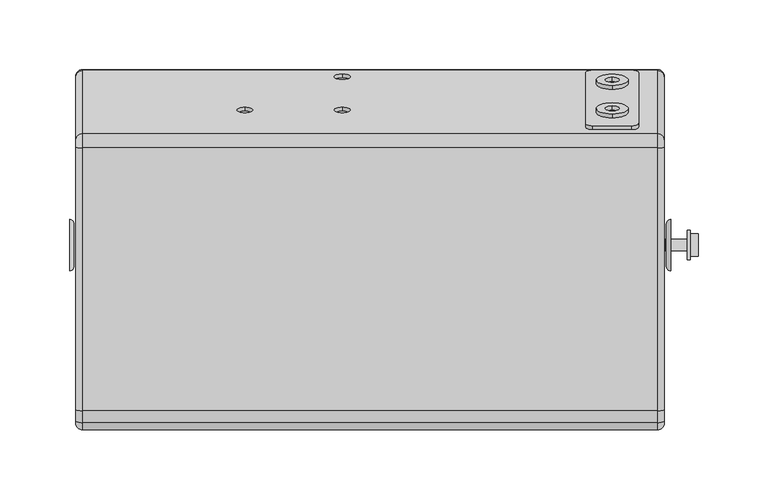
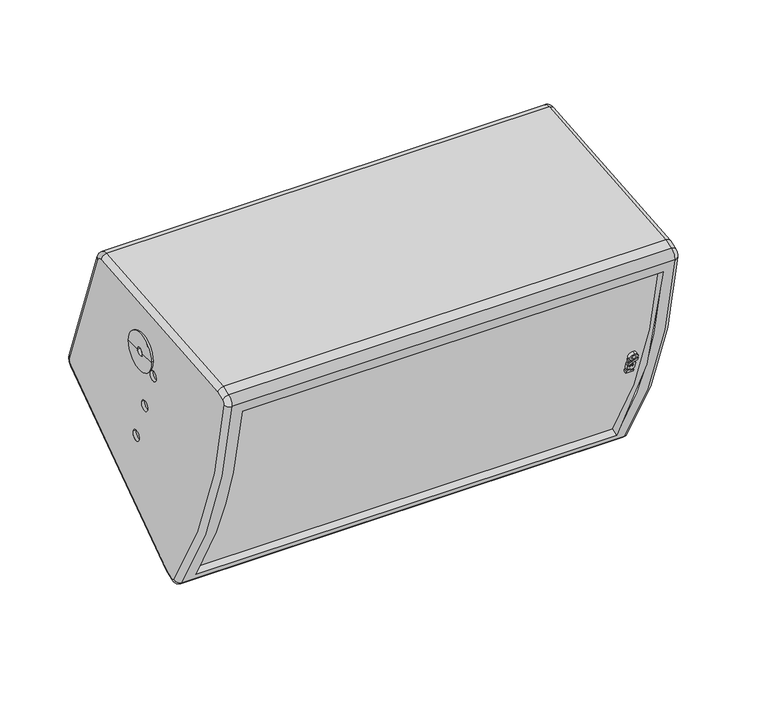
"""IFC4 building model written with IfcOpenShell, lengths in millimetres: proxy geometry, ePS8-HBRK425-CHM : ePS8-HBRK425-CHM."""

from ifc_helpers import new_model, si_unit, point, frame, frame_2d, origin, place, context, project, spatial, polyline, circle_curve, ellipse_curve, trimmed, segment, composite_curve, outline, extrude, source, transform, mapped, element, save
from ifc_brep_helpers import plane_surface, cylinder_surface, revolved_surface, advanced_brep


def generic_models_5a3a644b(model_context):
    return source(origin(), model_context, "Body", "SolidModel", [
        extrude(outline(polyline([(0.0, 0.0), (7.2797671, 0.0), (7.2797671, -1.8923672), (3.1144368, -1.8923672), (7.2797671, -4.6674641), (7.2797671, -11.5183738), (5.4047959, -12.8369462), (3.8052625, -11.7735691), (5.6771026, -10.4040265), (5.6771026, -7.3703972), (4.4228153, -7.3703972), (4.4228153, -9.65351), (2.820085, -9.65351), (2.820085, -7.3703972), (1.6035818, -7.3703972), (1.6035818, -9.7774718), (0.8035818, -9.7774718), (0.0008515, -9.2438131), (0.0008515, -4.9754371), (4.4509076, -4.9657455), (0.0, -2.0264794), (0.0, 0.0)])), frame((182.0590531, -126.494791, -274.642907), z_axis=(0.0, 0.9396926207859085, 0.34202014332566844), x_axis=(1.0, 0.0, 0.0)), (0.0, 0.0, 1.0), 3.0),
        extrude(outline(polyline([(0.0, -9.8851282), (8.2409469, -15.3637474), (8.2409469, -17.5569501), (0.0, -12.078331), (0.0, -9.8851282)])), frame((182.0590531, -126.494791, -274.642907), z_axis=(0.0, 0.9396926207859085, 0.34202014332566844), x_axis=(1.0, 0.0, 0.0)), (0.0, 0.0, 1.0), 3.0),
        extrude(outline(polyline([(0.0, -16.6257623), (0.0, -14.2989717), (1.267957, -13.5511774), (2.8988509, -14.6354031), (0.0, -16.6257623)])), frame((182.0590531, -126.494791, -274.642907), z_axis=(0.0, 0.9396926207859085, 0.34202014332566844), x_axis=(1.0, 0.0, 0.0)), (0.0, 0.0, 1.0), 3.0),
        extrude(outline(composite_curve([segment(trimmed(circle_curve(frame_2d((3.670838, -20.0113735)), 3.9406238), [point((3.670838, -16.0707496))], [point((3.670838, -23.9519973))], False, "CARTESIAN"), True, "CONTINUOUS"), segment(trimmed(circle_curve(frame_2d((3.670838, -20.0113735)), 3.9406238), [point((3.670838, -23.9519973))], [point((3.670838, -16.0707496))], False, "CARTESIAN"), True, "CONTINUOUS")], self_intersect=False), holes=[composite_curve([segment(trimmed(circle_curve(frame_2d((3.670838, -20.0113735)), 2.0681078), [point((3.670838, -17.9432657))], [point((3.670838, -22.0794813))], True, "CARTESIAN"), True, "CONTINUOUS"), segment(trimmed(circle_curve(frame_2d((3.670838, -20.0113735)), 2.0681078), [point((3.670838, -22.0794813))], [point((3.670838, -17.9432657))], True, "CARTESIAN"), True, "CONTINUOUS")], self_intersect=False)]), frame((182.0590531, -126.494791, -274.642907), z_axis=(0.0, 0.9396926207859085, 0.34202014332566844), x_axis=(1.0, 0.0, 0.0)), (0.0, 0.0, 1.0), 3.0),
        extrude(outline(composite_curve([segment(trimmed(circle_curve(frame_2d((0.0, 5.0)), 11.4515227), [point((0.0, 16.4515227))], [point((0.0, -6.4515227))], False, "CARTESIAN"), True, "CONTINUOUS"), segment(trimmed(circle_curve(frame_2d((0.0, 5.0)), 11.4515227), [point((0.0, -6.4515227))], [point((0.0, 16.4515227))], False, "CARTESIAN"), True, "CONTINUOUS")], self_intersect=False), holes=[composite_curve([segment(trimmed(circle_curve(frame_2d((0.0, 5.0)), 5.0), [point((0.0, 10.0))], [point((0.0, 0.0))], True, "CARTESIAN"), True, "CONTINUOUS"), segment(trimmed(circle_curve(frame_2d((0.0, 5.0)), 5.0), [point((0.0, 0.0))], [point((0.0, 10.0))], True, "CARTESIAN"), True, "CONTINUOUS")], self_intersect=False)]), frame((174.0, 66.6649163, -165.0316775), z_axis=(0.0, 0.9396926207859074, 0.3420201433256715), x_axis=(-1.0, 0.0, 0.0)), (0.0, 0.0, 1.0), 3.0),
        extrude(outline(composite_curve([segment(trimmed(circle_curve(frame_2d((0.0, -54.9999999)), 11.4515227), [point((0.0, -43.5484773))], [point((0.0, -66.4515227))], False, "CARTESIAN"), True, "CONTINUOUS"), segment(trimmed(circle_curve(frame_2d((0.0, -54.9999999)), 11.4515227), [point((0.0, -66.4515227))], [point((0.0, -43.5484773))], False, "CARTESIAN"), True, "CONTINUOUS")], self_intersect=False), holes=[composite_curve([segment(trimmed(circle_curve(frame_2d((0.0, -54.9999999)), 5.0), [point((0.0, -49.9999999))], [point((0.0, -60.0))], True, "CARTESIAN"), True, "CONTINUOUS"), segment(trimmed(circle_curve(frame_2d((0.0, -54.9999999)), 5.0), [point((0.0, -60.0))], [point((0.0, -49.9999999))], True, "CARTESIAN"), True, "CONTINUOUS")], self_intersect=False)]), frame((174.0, 66.6649163, -165.0316775), z_axis=(0.0, 0.9396926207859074, 0.3420201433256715), x_axis=(-1.0, 0.0, 0.0)), (0.0, 0.0, 1.0), 3.0),
        extrude(outline(composite_curve([segment(polyline([(-5.0, -5.0000001), (-5.0, 101.0)]), True, "CONTINUOUS"), segment(trimmed(circle_curve(frame_2d((0.0, 101.0)), 5.0), [point((-5.0, 101.0))], [point((0.0, 106.0))], False, "CARTESIAN"), True, "CONTINUOUS"), segment(polyline([(0.0, 106.0), (28.0, 106.0)]), True, "CONTINUOUS"), segment(trimmed(circle_curve(frame_2d((28.0, 101.0)), 5.0), [point((28.0, 106.0))], [point((33.0, 101.0))], False, "CARTESIAN"), True, "CONTINUOUS"), segment(polyline([(33.0, 101.0), (33.0, -5.0000001)]), True, "CONTINUOUS"), segment(trimmed(circle_curve(frame_2d((28.0, -5.0000001)), 5.0), [point((33.0, -5.0000001))], [point((28.0, -10.0000001))], False, "CARTESIAN"), True, "CONTINUOUS"), segment(polyline([(28.0, -10.0000001), (0.0, -10.0000001)]), True, "CONTINUOUS"), segment(trimmed(circle_curve(frame_2d((0.0, -5.0000001)), 5.0), [point((0.0, -10.0000001))], [point((-5.0, -5.0000001))], False, "CARTESIAN"), True, "CONTINUOUS")], self_intersect=False)), frame((160.0, 55.9793751, -144.4448077), z_axis=(0.0, 0.9396926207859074, 0.3420201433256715), x_axis=(1.0, 0.0, 0.0)), (0.0, 0.0, 1.0), 3.0),
        advanced_brep(
        [(-211.5, 88.5221552, -259.3097239), (-211.5, -66.3456884, -367.7493555), (-211.5, -74.3395243, -370.6588738), (-211.5, -77.8840023, -369.4700024), (-211.5, -158.3753946, -148.3217196), (-211.5, -156.4243587, -145.1326448), (-211.5, -148.4305228, -142.2231265), (-211.5, 39.9087798, -125.7455726), (-211.5, 45.0430216, -129.0164454), (-211.5, 90.3527361, -253.503863), (-211.5, -35.1984631, -228.7113599), (-211.5, -25.8015369, -225.2911584), (-211.5, -21.5176574, -266.2990647), (-211.5, -12.1207312, -262.8788633), (-211.5, -48.8792688, -191.123655), (-211.5, -39.4823426, -187.7034536), (211.5, -66.3456884, -367.7493555), (211.5, 88.5221552, -259.3097239), (211.5, 90.3527361, -253.503863), (211.5, 45.0430216, -129.0164454), (211.5, 39.9087798, -125.7455726), (211.5, -148.4305228, -142.2231265), (211.5, -156.4243587, -145.1326448), (211.5, -158.3753946, -148.3217196), (211.5, -77.8840023, -369.4700024), (211.5, -74.3395243, -370.6588738), (211.5, -25.8015369, -225.2911584), (211.5, -35.1984631, -228.7113599), (211.5, -12.1207312, -262.8788633), (211.5, -21.5176574, -266.2990647), (211.5, -39.4823426, -187.7034536), (211.5, -48.8792688, -191.123655), (-206.5, 95.0511992, -251.7937622), (-206.5, 49.7414847, -127.3063447), (206.5, 49.7414847, -127.3063447), (206.5, 95.0511992, -251.7937622), (-20.0043019, 88.5886982, -234.0381864), (-20.0043019, 92.4580816, -244.6692301), (-20.0043019, 64.6472881, -168.259703), (-20.0043019, 68.5166716, -178.8907467), (-90.0043019, 64.6472881, -168.259703), (-90.0043019, 68.5166716, -178.8907467), (-206.5, -163.3372217, -148.9383812), (-206.5, -82.0813648, -372.1870132), (206.4999999, -82.0813648, -372.1870132), (206.5, -163.3372217, -148.9383812), (-196.5, -86.9073452, -364.5914088), (-196.5, -162.1517768, -157.8590322), (196.5, -162.1517768, -157.8590322), (196.5, -86.9073452, -364.5914088), (-206.5, -158.1344595, -140.4341817), (206.5, -158.1344595, -140.4341817), (-206.5, -149.5220591, -137.2995243), (206.5, -149.5220591, -137.2995243), (-206.5, 39.4730011, -120.7645991), (206.5, 39.4730011, -120.7645991), (-206.5, 91.3900374, -263.4054841), (206.5, 91.3900374, -263.4054841), (-206.5, -64.0170233, -372.2226795), (206.5, -64.0170233, -372.2226795), (-206.5, -72.6294236, -375.3573369), (206.5, -72.6294236, -375.3573369), (-208.5, -25.8015369, -225.2911584), (-208.5, -35.1984631, -228.7113599), (-208.5, -12.1207312, -262.8788633), (-208.5, -21.5176574, -266.2990647), (-208.5, -39.4823426, -187.7034536), (-208.5, -48.8792688, -191.123655), (-196.5, -80.5731273, -362.285942), (-196.5, -155.714505, -155.5160569), (196.5, -155.714505, -155.5160569), (196.5, -80.5731273, -362.285942), (208.5, -25.8015369, -225.2911584), (208.5, -35.1984631, -228.7113599), (208.5, -12.1207312, -262.8788633), (208.5, -21.5176574, -266.2990647), (208.5, -39.4823426, -187.7034536), (208.5, -48.8792688, -191.123655), (-20.0043019, 85.7696203, -235.0642469), (-20.0043019, 89.6390038, -245.6952905), (-20.0043019, 61.8282103, -169.2857634), (-20.0043019, 65.6975937, -179.9168071), (-90.0043019, 61.8282103, -169.2857634), (-90.0043019, 65.6975937, -179.9168071)],
        [
            (0, 1),
            (1, 2),
            (2, 3, circle_curve(frame((-211.5, -75.3655848, -367.8397959), z_axis=(-1.0, 0.0, 0.0), x_axis=(0.0, -0.839472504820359, -0.5434021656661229)), 3.0)),
            (3, 4, circle_curve(frame((-211.5, 364.0613142, -83.3926852), z_axis=(-1.0, 0.0, 0.0), x_axis=(0.0, -0.9923654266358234, -0.12333231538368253)), 526.4559755)),
            (4, 5, circle_curve(frame((-211.5, -155.3982983, -147.9517227), z_axis=(-1.0, 0.0, 0.0), x_axis=(0.0, -0.3420201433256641, 0.9396926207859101)), 3.0)),
            (5, 6),
            (6, 7),
            (7, 8, circle_curve(frame((-211.5, 40.3445585, -130.7265461), z_axis=(-1.0, 0.0, 0.0), x_axis=(0.0, 0.9396926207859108, 0.3420201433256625)), 5.0)),
            (8, 9),
            (9, 0, circle_curve(frame((-211.5, 85.654273, -255.2139637), z_axis=(-1.0, 0.0, 0.0), x_axis=(0.0, 0.5735764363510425, -0.8191520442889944)), 5.0)),
            (10, 11, circle_curve(frame((-211.5, -30.5, -227.0012591), z_axis=(1.0, 0.0, 0.0), x_axis=(0.0, -0.9396926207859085, -0.34202014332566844)), 5.0)),
            (11, 10, circle_curve(frame((-211.5, -30.5, -227.0012591), z_axis=(1.0, 0.0, 0.0), x_axis=(0.0, -0.9396926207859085, -0.34202014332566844)), 5.0)),
            (12, 13, circle_curve(frame((-211.5, -16.8191943, -264.588964), z_axis=(1.0, 0.0, 0.0), x_axis=(0.0, -0.9396926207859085, -0.34202014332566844)), 5.0)),
            (13, 12, circle_curve(frame((-211.5, -16.8191943, -264.588964), z_axis=(1.0, 0.0, 0.0), x_axis=(0.0, -0.9396926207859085, -0.34202014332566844)), 5.0)),
            (14, 15, circle_curve(frame((-211.5, -44.1808057, -189.4135543), z_axis=(1.0, 0.0, 0.0), x_axis=(0.0, -0.9396926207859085, -0.34202014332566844)), 5.0)),
            (15, 14, circle_curve(frame((-211.5, -44.1808057, -189.4135543), z_axis=(1.0, 0.0, 0.0), x_axis=(0.0, -0.9396926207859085, -0.34202014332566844)), 5.0)),
            (16, 17),
            (17, 18, circle_curve(frame((211.5, 85.654273, -255.2139637), z_axis=(1.0, 0.0, 0.0), x_axis=(0.0, 0.5735764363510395, -0.8191520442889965)), 5.0)),
            (18, 19),
            (19, 20, circle_curve(frame((211.5, 40.3445585, -130.7265461), z_axis=(1.0, 0.0, 0.0), x_axis=(0.0, 0.9396926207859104, 0.34202014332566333)), 5.0)),
            (20, 21),
            (21, 22),
            (22, 23, circle_curve(frame((211.5, -155.3982983, -147.9517227), z_axis=(1.0, 0.0, 0.0), x_axis=(0.0, -0.3420201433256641, 0.9396926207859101)), 3.0)),
            (23, 24, circle_curve(frame((211.5, 364.0613142, -83.3926852), z_axis=(1.0, 0.0, 0.0), x_axis=(0.0, -0.9923654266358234, -0.12333231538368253)), 526.4559755)),
            (24, 25, circle_curve(frame((211.5, -75.3655848, -367.8397959), z_axis=(1.0, 0.0, 0.0), x_axis=(0.0, -0.839472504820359, -0.5434021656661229)), 3.0)),
            (25, 16),
            (26, 27, circle_curve(frame((211.5, -30.5, -227.0012591), z_axis=(-1.0, 0.0, 0.0), x_axis=(0.0, -0.9396926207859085, -0.34202014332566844)), 5.0)),
            (27, 26, circle_curve(frame((211.5, -30.5, -227.0012591), z_axis=(-1.0, 0.0, 0.0), x_axis=(0.0, -0.9396926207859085, -0.34202014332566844)), 5.0)),
            (28, 29, circle_curve(frame((211.5, -16.8191943, -264.588964), z_axis=(-1.0, 0.0, 0.0), x_axis=(0.0, -0.9396926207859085, -0.34202014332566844)), 5.0)),
            (29, 28, circle_curve(frame((211.5, -16.8191943, -264.588964), z_axis=(-1.0, 0.0, 0.0), x_axis=(0.0, -0.9396926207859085, -0.34202014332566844)), 5.0)),
            (30, 31, circle_curve(frame((211.5, -44.1808057, -189.4135543), z_axis=(-1.0, 0.0, 0.0), x_axis=(0.0, -0.9396926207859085, -0.34202014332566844)), 5.0)),
            (31, 30, circle_curve(frame((211.5, -44.1808057, -189.4135543), z_axis=(-1.0, 0.0, 0.0), x_axis=(0.0, -0.9396926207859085, -0.34202014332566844)), 5.0)),
            (32, 33),
            (33, 34),
            (34, 35),
            (35, 32),
            (36, 37, circle_curve(frame((-20.0043019, 90.5233899, -239.3537083), z_axis=(0.0, -0.9396926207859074, -0.3420201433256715), x_axis=(0.0, 0.3420201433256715, -0.9396926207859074)), 5.6566602)),
            (37, 36, circle_curve(frame((-20.0043019, 90.5233899, -239.3537083), z_axis=(0.0, -0.9396926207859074, -0.3420201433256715), x_axis=(0.0, 0.3420201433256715, -0.9396926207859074)), 5.6566602)),
            (38, 39, circle_curve(frame((-20.0043019, 66.5819799, -173.5752248), z_axis=(0.0, -0.9396926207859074, -0.3420201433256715), x_axis=(0.0, 0.3420201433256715, -0.9396926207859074)), 5.6566602)),
            (39, 38, circle_curve(frame((-20.0043019, 66.5819799, -173.5752248), z_axis=(0.0, -0.9396926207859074, -0.3420201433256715), x_axis=(0.0, 0.3420201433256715, -0.9396926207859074)), 5.6566602)),
            (40, 41, circle_curve(frame((-90.0043019, 66.5819799, -173.5752248), z_axis=(0.0, -0.9396926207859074, -0.3420201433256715), x_axis=(0.0, 0.3420201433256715, -0.9396926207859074)), 5.6566602)),
            (41, 40, circle_curve(frame((-90.0043019, 66.5819799, -173.5752248), z_axis=(0.0, -0.9396926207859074, -0.3420201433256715), x_axis=(0.0, 0.3420201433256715, -0.9396926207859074)), 5.6566602)),
            (42, 43, circle_curve(frame((-206.5, 364.0613142, -83.3926852), z_axis=(1.0, 0.0, 0.0), x_axis=(0.0, -0.34202014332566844, 0.9396926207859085)), 531.4559755)),
            (43, 44),
            (44, 45, circle_curve(frame((206.5, 364.0613142, -83.3926852), z_axis=(-1.0, 0.0, 0.0), x_axis=(0.0, -0.34202014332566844, 0.9396926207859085)), 531.4559755)),
            (45, 42),
            (46, 47, circle_curve(frame((-196.5, 364.0613142, -83.3926852), z_axis=(-1.0, 0.0, 0.0), x_axis=(0.0, -0.34202014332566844, 0.9396926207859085)), 531.4559755)),
            (47, 48),
            (48, 49, circle_curve(frame((196.5, 364.0613142, -83.3926852), z_axis=(1.0, 0.0, 0.0), x_axis=(0.0, -0.34202014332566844, 0.9396926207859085)), 531.4559755)),
            (49, 46),
            (50, 42, circle_curve(frame((-206.5, -155.3982983, -147.9517227), z_axis=(1.0, 0.0, 0.0), x_axis=(0.0, -0.34202014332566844, 0.9396926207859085)), 8.0)),
            (45, 51, circle_curve(frame((206.5, -155.3982983, -147.9517227), z_axis=(-1.0, 0.0, 0.0), x_axis=(0.0, -0.34202014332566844, 0.9396926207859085)), 8.0)),
            (51, 50),
            (52, 50),
            (51, 53),
            (53, 52),
            (54, 52),
            (53, 55),
            (55, 54),
            (33, 54, circle_curve(frame((-206.5, 40.3445585, -130.7265461), z_axis=(1.0, 0.0, 0.0), x_axis=(0.0, -0.34202014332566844, 0.9396926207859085)), 10.0)),
            (55, 34, circle_curve(frame((206.5, 40.3445585, -130.7265461), z_axis=(-1.0, 0.0, 0.0), x_axis=(0.0, -0.34202014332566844, 0.9396926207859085)), 10.0)),
            (56, 32, circle_curve(frame((-206.5, 85.654273, -255.2139637), z_axis=(1.0, 0.0, 0.0), x_axis=(0.0, -0.34202014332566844, 0.9396926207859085)), 10.0)),
            (35, 57, circle_curve(frame((206.5, 85.654273, -255.2139637), z_axis=(-1.0, 0.0, 0.0), x_axis=(0.0, -0.34202014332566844, 0.9396926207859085)), 10.0)),
            (57, 56),
            (58, 56),
            (57, 59),
            (59, 58),
            (60, 58),
            (59, 61),
            (61, 60),
            (43, 60, circle_curve(frame((-206.5, -75.3655848, -367.8397959), z_axis=(1.0, 0.0, 0.0), x_axis=(0.0, -0.34202014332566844, 0.9396926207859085)), 8.0)),
            (61, 44, circle_curve(frame((206.5, -75.3655848, -367.8397959), z_axis=(-1.0, 0.0, 0.0), x_axis=(0.0, -0.34202014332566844, 0.9396926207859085)), 8.0)),
            (62, 63, circle_curve(frame((-208.5, -30.5, -227.0012591), z_axis=(-1.0, 0.0, 0.0), x_axis=(0.0, -0.9396926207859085, -0.34202014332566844)), 5.0)),
            (63, 62, circle_curve(frame((-208.5, -30.5, -227.0012591), z_axis=(-1.0, 0.0, 0.0), x_axis=(0.0, -0.9396926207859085, -0.34202014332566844)), 5.0)),
            (64, 65, circle_curve(frame((-208.5, -16.8191943, -264.588964), z_axis=(-1.0, 0.0, 0.0), x_axis=(0.0, -0.9396926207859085, -0.34202014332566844)), 5.0)),
            (65, 64, circle_curve(frame((-208.5, -16.8191943, -264.588964), z_axis=(-1.0, 0.0, 0.0), x_axis=(0.0, -0.9396926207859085, -0.34202014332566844)), 5.0)),
            (66, 67, circle_curve(frame((-208.5, -44.1808057, -189.4135543), z_axis=(-1.0, 0.0, 0.0), x_axis=(0.0, -0.9396926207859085, -0.34202014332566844)), 5.0)),
            (67, 66, circle_curve(frame((-208.5, -44.1808057, -189.4135543), z_axis=(-1.0, 0.0, 0.0), x_axis=(0.0, -0.9396926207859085, -0.34202014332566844)), 5.0)),
            (62, 11),
            (10, 63),
            (64, 13),
            (12, 65),
            (66, 15),
            (14, 67),
            (46, 68),
            (68, 69, circle_curve(frame((-196.5, 360.9248593, -84.8046593), z_axis=(-1.0, 0.0, 0.0), x_axis=(0.0, -0.34202014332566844, 0.9396926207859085)), 521.4559755)),
            (69, 47),
            (48, 70),
            (70, 71, circle_curve(frame((196.5, 360.9248593, -84.8046593), z_axis=(1.0, 0.0, 0.0), x_axis=(0.0, -0.34202014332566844, 0.9396926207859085)), 521.4559755)),
            (71, 49),
            (69, 70),
            (68, 71),
            (0, 56, circle_curve(frame((-206.5, 88.5221552, -259.3097239), z_axis=(0.0, -0.8191520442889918, -0.5735764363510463), x_axis=(0.0, 0.5735764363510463, -0.8191520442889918)), 5.0)),
            (58, 1, ellipse_curve(frame((-206.5, -66.3456884, -367.7493555), z_axis=(0.0, 0.8870108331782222, 0.46174861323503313), x_axis=(0.0, -0.46174861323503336, 0.8870108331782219)), 5.0431448, 5.0)),
            (9, 32, circle_curve(frame((-206.5, 90.3527361, -253.503863), z_axis=(0.0, 0.34202014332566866, -0.9396926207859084), x_axis=(0.0, 0.9396926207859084, 0.34202014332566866)), 5.0)),
            (8, 33, circle_curve(frame((-206.5, 45.0430216, -129.0164454), z_axis=(0.0, 0.34202014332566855, -0.9396926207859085), x_axis=(0.0, 0.9396926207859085, 0.34202014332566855)), 5.0)),
            (7, 54, circle_curve(frame((-206.5, 39.9087798, -125.7455726), z_axis=(0.0, 0.9961946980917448, 0.08715574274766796), x_axis=(0.0, -0.08715574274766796, 0.9961946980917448)), 5.0)),
            (6, 52, ellipse_curve(frame((-206.5, -148.4305228, -142.2231265), z_axis=(0.0, 0.9762960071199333, 0.21643961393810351), x_axis=(0.0, -0.2164396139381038, 0.9762960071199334)), 5.0431448, 5.0)),
            (60, 2, circle_curve(frame((-206.5, -74.3395243, -370.6588738), z_axis=(0.0, 0.9396926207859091, 0.3420201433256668), x_axis=(0.0, 0.3420201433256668, -0.9396926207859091)), 5.0)),
            (5, 50, circle_curve(frame((-206.5, -156.4243587, -145.1326448), z_axis=(0.0, 0.9396926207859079, 0.3420201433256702), x_axis=(0.0, -0.3420201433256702, 0.9396926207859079)), 5.0)),
            (4, 42, circle_curve(frame((-206.5, -158.3753946, -148.3217196), z_axis=(0.0, -0.12333231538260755, 0.9923654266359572), x_axis=(0.0, -0.9923654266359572, -0.12333231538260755)), 5.0)),
            (3, 43, circle_curve(frame((-206.5, -77.8840023, -369.4700024), z_axis=(0.0, -0.5434021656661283, 0.8394725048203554), x_axis=(0.0, -0.8394725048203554, -0.5434021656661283)), 5.0)),
            (57, 17, circle_curve(frame((206.5, 88.5221552, -259.3097239), z_axis=(0.0, -0.8191520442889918, -0.5735764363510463), x_axis=(0.0, 0.5735764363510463, -0.8191520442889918)), 5.0)),
            (16, 59, ellipse_curve(frame((206.5, -66.3456884, -367.7493555), z_axis=(0.0, 0.8870108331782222, 0.4617486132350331), x_axis=(0.0, -0.4617486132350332, 0.887010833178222)), 5.0431448, 5.0)),
            (35, 18, circle_curve(frame((206.5, 90.3527361, -253.503863), z_axis=(0.0, 0.34202014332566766, -0.9396926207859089), x_axis=(0.0, 0.9396926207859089, 0.34202014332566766)), 5.0)),
            (34, 19, circle_curve(frame((206.5, 45.0430216, -129.0164454), z_axis=(0.0, 0.3420201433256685, -0.9396926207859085), x_axis=(0.0, 0.9396926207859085, 0.3420201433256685)), 5.0)),
            (55, 20, circle_curve(frame((206.5, 39.9087798, -125.7455726), z_axis=(0.0, 0.9961946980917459, 0.08715574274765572), x_axis=(0.0, -0.08715574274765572, 0.9961946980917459)), 5.0)),
            (53, 21, ellipse_curve(frame((206.5, -148.4305228, -142.2231265), z_axis=(0.0, 0.9762960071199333, 0.21643961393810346), x_axis=(0.0, -0.2164396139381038, 0.9762960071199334)), 5.0431448, 5.0)),
            (25, 61, circle_curve(frame((206.5, -74.3395243, -370.6588738), z_axis=(0.0, 0.9396926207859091, 0.34202014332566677), x_axis=(0.0, 0.34202014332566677, -0.9396926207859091)), 5.0)),
            (51, 22, circle_curve(frame((206.5, -156.4243587, -145.1326448), z_axis=(0.0, 0.9396926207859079, 0.3420201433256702), x_axis=(0.0, -0.3420201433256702, 0.9396926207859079)), 5.0)),
            (45, 23, circle_curve(frame((206.5, -158.3753946, -148.3217196), z_axis=(0.0, -0.12333231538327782, 0.9923654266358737), x_axis=(0.0, -0.9923654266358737, -0.12333231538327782)), 5.0)),
            (44, 24, circle_curve(frame((206.5, -77.8840023, -369.4700024), z_axis=(0.0, -0.5434021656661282, 0.8394725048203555), x_axis=(0.0, -0.8394725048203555, -0.5434021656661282)), 5.0)),
            (72, 73, circle_curve(frame((208.5, -30.5, -227.0012591), z_axis=(1.0, 0.0, 0.0), x_axis=(0.0, -0.9396926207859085, -0.34202014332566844)), 5.0)),
            (73, 72, circle_curve(frame((208.5, -30.5, -227.0012591), z_axis=(1.0, 0.0, 0.0), x_axis=(0.0, -0.9396926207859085, -0.34202014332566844)), 5.0)),
            (74, 75, circle_curve(frame((208.5, -16.8191943, -264.588964), z_axis=(1.0, 0.0, 0.0), x_axis=(0.0, -0.9396926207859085, -0.34202014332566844)), 5.0)),
            (75, 74, circle_curve(frame((208.5, -16.8191943, -264.588964), z_axis=(1.0, 0.0, 0.0), x_axis=(0.0, -0.9396926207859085, -0.34202014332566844)), 5.0)),
            (76, 77, circle_curve(frame((208.5, -44.1808057, -189.4135543), z_axis=(1.0, 0.0, 0.0), x_axis=(0.0, -0.9396926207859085, -0.34202014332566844)), 5.0)),
            (77, 76, circle_curve(frame((208.5, -44.1808057, -189.4135543), z_axis=(1.0, 0.0, 0.0), x_axis=(0.0, -0.9396926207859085, -0.34202014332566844)), 5.0)),
            (73, 27),
            (26, 72),
            (75, 29),
            (28, 74),
            (77, 31),
            (30, 76),
            (78, 79, circle_curve(frame((-20.0043019, 87.704312, -240.3797687), z_axis=(0.0, 0.9396926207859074, 0.3420201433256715), x_axis=(0.0, 0.3420201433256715, -0.9396926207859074)), 5.6566602)),
            (79, 78, circle_curve(frame((-20.0043019, 87.704312, -240.3797687), z_axis=(0.0, 0.9396926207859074, 0.3420201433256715), x_axis=(0.0, 0.3420201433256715, -0.9396926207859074)), 5.6566602)),
            (80, 81, circle_curve(frame((-20.0043019, 63.762902, -174.6012852), z_axis=(0.0, 0.9396926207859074, 0.3420201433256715), x_axis=(0.0, 0.3420201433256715, -0.9396926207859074)), 5.6566602)),
            (81, 80, circle_curve(frame((-20.0043019, 63.762902, -174.6012852), z_axis=(0.0, 0.9396926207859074, 0.3420201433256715), x_axis=(0.0, 0.3420201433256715, -0.9396926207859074)), 5.6566602)),
            (82, 83, circle_curve(frame((-90.0043019, 63.762902, -174.6012852), z_axis=(0.0, 0.9396926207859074, 0.3420201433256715), x_axis=(0.0, 0.3420201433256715, -0.9396926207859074)), 5.6566602)),
            (83, 82, circle_curve(frame((-90.0043019, 63.762902, -174.6012852), z_axis=(0.0, 0.9396926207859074, 0.3420201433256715), x_axis=(0.0, 0.3420201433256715, -0.9396926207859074)), 5.6566602)),
            (79, 37),
            (36, 78),
            (81, 39),
            (38, 80),
            (83, 41),
            (40, 82),
        ],
        [
            plane_surface(frame((-211.5, -158.1344595, -140.4341817), z_axis=(-1.0, 0.0, 0.0), x_axis=(0.0, 0.9396926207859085, 0.34202014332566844))),
            plane_surface(frame((211.5, -158.1344595, -140.4341817), z_axis=(1.0, 0.0, 0.0), x_axis=(0.0, -0.9396926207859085, -0.34202014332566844))),
            plane_surface(frame((-211.5, 49.7414847, -127.3063447), z_axis=(0.0, 0.9396926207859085, 0.34202014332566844), x_axis=(1.0, 0.0, 0.0))),
            cylinder_surface(frame((211.5, 364.0613142, -83.3926852), z_axis=(-1.0, 0.0, 0.0), x_axis=(0.0, -0.34202014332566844, 0.9396926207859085)), 531.4559755),
            cylinder_surface(frame((211.5, -155.3982983, -147.9517227), z_axis=(-1.0, 0.0, 0.0), x_axis=(0.0, -0.34202014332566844, 0.9396926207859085)), 8.0),
            plane_surface(frame((-211.5, -158.1344595, -140.4341817), z_axis=(0.0, -0.34202014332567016, 0.9396926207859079), x_axis=(1.0, 0.0, 0.0))),
            plane_surface(frame((-211.5, -149.5220591, -137.2995243), z_axis=(0.0, -0.08715574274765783, 0.9961946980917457), x_axis=(1.0, 0.0, 0.0))),
            cylinder_surface(frame((211.5, 40.3445585, -130.7265461), z_axis=(-1.0, 0.0, 0.0), x_axis=(0.0, -0.34202014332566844, 0.9396926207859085)), 10.0),
            cylinder_surface(frame((211.5, 85.654273, -255.2139637), z_axis=(-1.0, 0.0, 0.0), x_axis=(0.0, -0.34202014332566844, 0.9396926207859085)), 10.0),
            plane_surface(frame((-211.5, 91.3900374, -263.4054841), z_axis=(0.0, 0.5735764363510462, -0.8191520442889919), x_axis=(1.0, 0.0, 0.0))),
            plane_surface(frame((-211.5, -64.0170233, -372.2226795), z_axis=(0.0, 0.3420201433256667, -0.9396926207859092), x_axis=(1.0, 0.0, 0.0))),
            cylinder_surface(frame((211.5, -75.3655848, -367.8397959), z_axis=(-1.0, 0.0, 0.0), x_axis=(0.0, -0.34202014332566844, 0.9396926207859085)), 8.0),
            plane_surface(frame((-208.5, -35.1984631, -228.7113599), z_axis=(-1.0, 0.0, 0.0), x_axis=(0.0, 0.34202014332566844, -0.9396926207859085))),
            revolved_surface(polyline([(-211.5, -35.19846310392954, -228.71135981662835), (-208.5, -35.19846310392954, -228.71135981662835)]), (-208.5, -30.5, -227.0012591), (-1.0, 0.0, 0.0)),
            revolved_surface(polyline([(-211.5, -21.51765740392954, -266.2990647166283), (-208.5, -21.51765740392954, -266.2990647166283)]), (-211.5, -16.8191943, -264.588964), (-1.0, 0.0, 0.0)),
            revolved_surface(polyline([(-211.5, -48.87926880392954, -191.12365501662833), (-208.5, -48.87926880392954, -191.12365501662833)]), (-211.5, -44.1808057, -189.4135543), (-1.0, 0.0, 0.0)),
            plane_surface(frame((-196.5, -216.3680464, -177.5921405), z_axis=(1.0, 0.0, 0.0), x_axis=(0.0, 0.9396926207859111, 0.3420201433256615))),
            plane_surface(frame((196.5, -216.3680464, -177.5921405), z_axis=(-1.0, 0.0, 0.0), x_axis=(0.0, -0.9396926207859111, -0.3420201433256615))),
            plane_surface(frame((-196.5, -162.1517768, -157.8590322), z_axis=(0.0, 0.3420201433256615, -0.9396926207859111), x_axis=(1.0, 0.0, 0.0))),
            cylinder_surface(frame((196.5, 360.9248593, -84.8046593), z_axis=(1.0, 0.0, 0.0), x_axis=(0.0, -0.34202014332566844, 0.9396926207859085)), 521.4559755),
            plane_surface(frame((-196.5, -80.5731273, -362.285942), z_axis=(0.0, -0.3420201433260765, 0.93969262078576), x_axis=(1.0, 0.0, 0.0))),
            cylinder_surface(frame((-206.5, -66.8849055, -368.1269193), z_axis=(0.0, 0.8191520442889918, 0.5735764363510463), x_axis=(0.0, 0.5735764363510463, -0.8191520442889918)), 5.0),
            revolved_surface(trimmed(ellipse_curve(frame((-206.5, 88.5221552, -259.3097239), z_axis=(0.0, -0.8191520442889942, -0.5735764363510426), x_axis=(0.0, 0.5735764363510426, -0.8191520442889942)), 5.0, 5.0), [point((-211.5, 88.5221552, -259.3097239))], [point((-206.5, 91.3900374, -263.4054841))], True, "CARTESIAN"), (-211.5, 85.654273, -255.2139637), (1.0, 0.0, 0.0)),
            cylinder_surface(frame((-206.5, 90.3527361, -253.503863), z_axis=(0.0, -0.34202014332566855, 0.9396926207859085), x_axis=(0.0, 0.9396926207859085, 0.34202014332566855)), 5.0),
            revolved_surface(trimmed(ellipse_curve(frame((-206.5, 45.0430216, -129.0164454), z_axis=(0.0, 0.34202014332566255, -0.9396926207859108), x_axis=(0.0, 0.9396926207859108, 0.34202014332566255)), 5.0, 5.0), [point((-211.5, 45.0430216, -129.0164454))], [point((-206.5, 49.7414847, -127.3063447))], True, "CARTESIAN"), (-211.5, 40.3445585, -130.7265461), (1.0, 0.0, 0.0)),
            cylinder_surface(frame((-206.5, 39.9087798, -125.7455726), z_axis=(0.0, -0.9961946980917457, -0.08715574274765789), x_axis=(0.0, -0.08715574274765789, 0.9961946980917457)), 5.0),
            cylinder_surface(frame((-206.5, -74.3395243, -370.6588738), z_axis=(0.0, 0.9396926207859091, 0.3420201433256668), x_axis=(0.0, 0.3420201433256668, -0.9396926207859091)), 5.0),
            cylinder_surface(frame((-206.5, -147.8119584, -141.9979874), z_axis=(0.0, -0.9396926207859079, -0.3420201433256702), x_axis=(0.0, -0.3420201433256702, 0.9396926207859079)), 5.0),
            revolved_surface(trimmed(ellipse_curve(frame((-206.5, -156.4243587, -145.1326448), z_axis=(0.0, 0.9396926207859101, 0.34202014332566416), x_axis=(0.0, -0.34202014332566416, 0.9396926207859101)), 5.0, 5.0), [point((-211.5, -156.4243587, -145.1326448))], [point((-206.5, -158.1344595, -140.4341817))], True, "CARTESIAN"), (-211.5, -155.3982983, -147.9517227), (1.0, 0.0, 0.0)),
            revolved_surface(trimmed(ellipse_curve(frame((-206.5, -158.3753946, -148.3217196), z_axis=(0.0, -0.12333231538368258, 0.9923654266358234), x_axis=(0.0, -0.9923654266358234, -0.12333231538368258)), 5.0, 5.0), [point((-211.5, -158.3753946, -148.3217196))], [point((-206.5, -163.3372217, -148.9383812))], True, "CARTESIAN"), (-211.5, 364.0613142, -83.3926852), (1.0, 0.0, 0.0)),
            revolved_surface(trimmed(ellipse_curve(frame((-206.5, -77.8840023, -369.4700024), z_axis=(0.0, -0.543402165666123, 0.8394725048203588), x_axis=(0.0, -0.8394725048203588, -0.543402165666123)), 5.0, 5.0), [point((-211.5, -77.8840023, -369.4700024))], [point((-206.5, -82.0813648, -372.1870132))], True, "CARTESIAN"), (-211.5, -75.3655848, -367.8397959), (1.0, 0.0, 0.0)),
            cylinder_surface(frame((206.5, -66.8849055, -368.1269193), z_axis=(0.0, 0.8191520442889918, 0.5735764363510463), x_axis=(0.0, 0.5735764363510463, -0.8191520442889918)), 5.0),
            revolved_surface(trimmed(ellipse_curve(frame((206.5, 88.5221552, -259.3097239), z_axis=(0.0, -0.8191520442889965, -0.5735764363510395), x_axis=(0.0, 0.5735764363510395, -0.8191520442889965)), 5.0, 5.0), [point((206.5, 91.3900374, -263.4054841))], [point((211.5, 88.5221552, -259.3097239))], True, "CARTESIAN"), (211.5, 85.654273, -255.2139637), (1.0, 0.0, 0.0)),
            cylinder_surface(frame((206.5, 90.3527361, -253.503863), z_axis=(0.0, -0.3420201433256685, 0.9396926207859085), x_axis=(0.0, 0.9396926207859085, 0.3420201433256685)), 5.0),
            revolved_surface(trimmed(ellipse_curve(frame((206.5, 45.0430216, -129.0164454), z_axis=(0.0, 0.3420201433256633, -0.9396926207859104), x_axis=(0.0, 0.9396926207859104, 0.3420201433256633)), 5.0, 5.0), [point((206.5, 49.7414847, -127.3063447))], [point((211.5, 45.0430216, -129.0164454))], True, "CARTESIAN"), (211.5, 40.3445585, -130.7265461), (1.0, 0.0, 0.0)),
            cylinder_surface(frame((206.5, 39.9087798, -125.7455726), z_axis=(0.0, -0.9961946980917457, -0.08715574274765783), x_axis=(0.0, -0.08715574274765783, 0.9961946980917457)), 5.0),
            cylinder_surface(frame((206.5, -74.3395243, -370.6588738), z_axis=(0.0, 0.9396926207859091, 0.34202014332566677), x_axis=(0.0, 0.34202014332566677, -0.9396926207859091)), 5.0),
            cylinder_surface(frame((206.5, -147.8119584, -141.9979874), z_axis=(0.0, -0.9396926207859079, -0.3420201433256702), x_axis=(0.0, -0.3420201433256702, 0.9396926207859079)), 5.0),
            revolved_surface(trimmed(ellipse_curve(frame((206.5, -156.4243587, -145.1326448), z_axis=(0.0, 0.9396926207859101, 0.34202014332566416), x_axis=(0.0, -0.34202014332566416, 0.9396926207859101)), 5.0, 5.0), [point((206.5, -158.1344595, -140.4341817))], [point((211.5, -156.4243587, -145.1326448))], True, "CARTESIAN"), (211.5, -155.3982983, -147.9517227), (1.0, 0.0, 0.0)),
            revolved_surface(trimmed(ellipse_curve(frame((206.5, -158.3753946, -148.3217196), z_axis=(0.0, -0.12333231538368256, 0.9923654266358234), x_axis=(0.0, -0.9923654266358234, -0.12333231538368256)), 5.0, 5.0), [point((206.5, -163.3372217, -148.9383812))], [point((211.5, -158.3753946, -148.3217196))], True, "CARTESIAN"), (211.5, 364.0613142, -83.3926852), (1.0, 0.0, 0.0)),
            revolved_surface(trimmed(ellipse_curve(frame((206.5, -77.8840023, -369.4700024), z_axis=(0.0, -0.543402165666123, 0.8394725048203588), x_axis=(0.0, -0.8394725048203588, -0.543402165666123)), 5.0, 5.0), [point((206.5, -82.0813648, -372.1870132))], [point((211.5, -77.8840023, -369.4700024))], True, "CARTESIAN"), (211.5, -75.3655848, -367.8397959), (1.0, 0.0, 0.0)),
            plane_surface(frame((208.5, -35.1984631, -228.7113599), z_axis=(1.0, 0.0, 0.0), x_axis=(0.0, -0.34202014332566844, 0.9396926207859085))),
            revolved_surface(polyline([(208.5, -35.19846310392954, -228.71135981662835), (211.5, -35.19846310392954, -228.71135981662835)]), (214.5, -30.5, -227.0012591), (-1.0, 0.0, 0.0)),
            revolved_surface(polyline([(208.5, -21.51765740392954, -266.2990647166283), (211.5, -21.51765740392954, -266.2990647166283)]), (211.5, -16.8191943, -264.588964), (-1.0, 0.0, 0.0)),
            revolved_surface(polyline([(208.5, -48.87926880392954, -191.12365501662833), (211.5, -48.87926880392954, -191.12365501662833)]), (211.5, -44.1808057, -189.4135543), (-1.0, 0.0, 0.0)),
            plane_surface(frame((-20.0043019, 89.6390038, -245.6952905), z_axis=(0.0, 0.9396926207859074, 0.3420201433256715), x_axis=(1.0, 0.0, 0.0))),
            revolved_surface(polyline([(-20.0043019, 92.45808166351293, -244.66923009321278), (-20.0043019, 89.63900373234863, -245.69529054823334)]), (-20.0043019, 87.704312, -240.3797687), (0.0, 0.9396926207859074, 0.3420201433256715)),
            revolved_surface(polyline([(-20.0043019, 68.51667163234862, -178.89074664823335), (-20.0043019, 65.69759370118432, -179.91680710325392)]), (-20.0043019, 66.5819799, -173.5752248), (0.0, 0.9396926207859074, 0.3420201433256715)),
            revolved_surface(polyline([(-90.0043019, 68.51667163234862, -178.89074664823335), (-90.0043019, 65.69759370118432, -179.91680710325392)]), (-90.0043019, 66.5819799, -173.5752248), (0.0, 0.9396926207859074, 0.3420201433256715)),
        ],
        [
            (0, [[1, 2, 3, 4, 5, 6, 7, 8, 9, 10], [11, 12], [13, 14], [15, 16]]),
            (1, [[17, 18, 19, 20, 21, 22, 23, 24, 25, 26], [27, 28], [29, 30], [31, 32]]),
            (2, [[33, 34, 35, 36], [37, 38], [39, 40], [41, 42]]),
            (3, [[43, 44, 45, 46], [47, 48, 49, 50]]),
            (4, [[51, -46, 52, 53]]),
            (5, [[54, -53, 55, 56]]),
            (6, [[57, -56, 58, 59]]),
            (7, [[60, -59, 61, -34]]),
            (8, [[62, -36, 63, 64]]),
            (9, [[65, -64, 66, 67]]),
            (10, [[68, -67, 69, 70]]),
            (11, [[71, -70, 72, -44]]),
            (12, [[73, 74]]),
            (12, [[75, 76]]),
            (12, [[77, 78]]),
            (13, [[-73, 79, -11, 80]]),
            (13, [[-74, -80, -12, -79]]),
            (14, [[-75, 81, -13, 82]]),
            (14, [[-76, -82, -14, -81]]),
            (15, [[-77, 83, -15, 84]]),
            (15, [[-78, -84, -16, -83]]),
            (16, [[85, 86, 87, -47]]),
            (17, [[88, 89, 90, -49]]),
            (18, [[-87, 91, -88, -48]]),
            (19, [[-86, 92, -89, -91]]),
            (20, [[-85, -50, -90, -92]]),
            (21, [[93, -65, 94, -1]]),
            (22, [[-93, -10, 95, -62]]),
            (23, [[-95, -9, 96, -33]]),
            (24, [[-96, -8, 97, -60]]),
            (25, [[-97, -7, 98, -57]]),
            (26, [[-94, -68, 99, -2]]),
            (27, [[-98, -6, 100, -54]]),
            (28, [[-100, -5, 101, -51]]),
            (29, [[-101, -4, 102, -43]]),
            (30, [[-99, -71, -102, -3]]),
            (31, [[103, -17, 104, -66]]),
            (32, [[-103, -63, 105, -18]]),
            (33, [[-105, -35, 106, -19]]),
            (34, [[-106, -61, 107, -20]]),
            (35, [[-107, -58, 108, -21]]),
            (36, [[-104, -26, 109, -69]]),
            (37, [[-108, -55, 110, -22]]),
            (38, [[-110, -52, 111, -23]]),
            (39, [[-111, -45, 112, -24]]),
            (40, [[-109, -25, -112, -72]]),
            (41, [[113, 114]]),
            (41, [[115, 116]]),
            (41, [[117, 118]]),
            (42, [[-114, 119, -27, 120]]),
            (42, [[-113, -120, -28, -119]]),
            (43, [[-116, 121, -29, 122]]),
            (43, [[-115, -122, -30, -121]]),
            (44, [[-118, 123, -31, 124]]),
            (44, [[-117, -124, -32, -123]]),
            (45, [[125, 126]]),
            (45, [[127, 128]]),
            (45, [[129, 130]]),
            (46, [[-126, 131, -37, 132]]),
            (46, [[-125, -132, -38, -131]]),
            (47, [[-128, 133, -39, 134]]),
            (47, [[-127, -134, -40, -133]]),
            (48, [[-130, 135, -41, 136]]),
            (48, [[-129, -136, -42, -135]]),
        ],
    ),
        advanced_brep(
        [(216.0, -26.527433, -172.0012591), (216.0, -34.472567, -172.0012591), (216.0, -48.942415, -172.0012591), (216.0, -12.057585, -172.0012591), (213.0, -45.942415, -172.0012591), (213.0, -15.057585, -172.0012591), (213.0, -34.472567, -172.0012591), (213.0, -26.527433, -172.0012591)],
        [
            (0, 1, circle_curve(frame((216.0, -30.5, -172.0012591), z_axis=(-1.0, 0.0, 0.0), x_axis=(0.0, -1.0, 0.0)), 3.972567)),
            (1, 2),
            (2, 3, circle_curve(frame((216.0, -30.5, -172.0012591), z_axis=(1.0, 0.0, 0.0), x_axis=(0.0, -1.0, 0.0)), 18.442415)),
            (3, 0),
            (1, 0, circle_curve(frame((216.0, -30.5, -172.0012591), z_axis=(-1.0, 0.0, 0.0), x_axis=(0.0, -1.0, 0.0)), 3.972567)),
            (3, 2, circle_curve(frame((216.0, -30.5, -172.0012591), z_axis=(1.0, 0.0, 0.0), x_axis=(0.0, -1.0, 0.0)), 18.442415)),
            (2, 4, circle_curve(frame((216.0, -45.942415, -172.0012591), z_axis=(0.0, 0.0, -1.0), x_axis=(-1.0, 0.0, 0.0)), 3.0)),
            (4, 5, circle_curve(frame((213.0, -30.5, -172.0012591), z_axis=(1.0, 0.0, 0.0), x_axis=(0.0, -1.0, 0.0)), 15.442415)),
            (5, 3, circle_curve(frame((216.0, -15.057585, -172.0012591), z_axis=(0.0, 0.0, -1.0), x_axis=(-1.0, 0.0, 0.0)), 3.0)),
            (5, 4, circle_curve(frame((213.0, -30.5, -172.0012591), z_axis=(1.0, 0.0, 0.0), x_axis=(0.0, -1.0, 0.0)), 15.442415)),
            (4, 6),
            (6, 7, circle_curve(frame((213.0, -30.5, -172.0012591), z_axis=(1.0, 0.0, 0.0), x_axis=(0.0, -1.0, 0.0)), 3.972567)),
            (7, 5),
            (7, 6, circle_curve(frame((213.0, -30.5, -172.0012591), z_axis=(1.0, 0.0, 0.0), x_axis=(0.0, -1.0, 0.0)), 3.972567)),
            (6, 1),
            (0, 7),
        ],
        [
            plane_surface(frame((216.0, -30.5, -172.0012591), z_axis=(1.0, 0.0, 0.0), x_axis=(0.0, -1.0, 0.0))),
            revolved_surface(trimmed(ellipse_curve(frame((216.0, -45.942415, -172.0012591), z_axis=(0.0, 0.0, 1.0), x_axis=(-1.0, 0.0, 0.0)), 3.0, 3.0), [point((213.0, -45.942415, -172.0012591))], [point((216.0, -48.942415, -172.0012591))], True, "CARTESIAN"), (203.2578639, -30.5, -172.0012591), (1.0, 0.0, 0.0)),
            plane_surface(frame((213.0, -30.5, -172.0012591), z_axis=(-1.0, 0.0, 0.0), x_axis=(0.0, -1.0, 0.0))),
            revolved_surface(polyline([(216.0, -34.472567, -172.0012591), (213.0, -34.472567, -172.0012591)]), (203.2578639, -30.5, -172.0012591), (1.0, 0.0, 0.0)),
        ],
        [
            (0, [[1, 2, 3, 4]]),
            (0, [[5, -4, 6, -2]]),
            (1, [[-3, 7, 8, 9]]),
            (1, [[-6, -9, 10, -7]]),
            (2, [[-8, 11, 12, 13]]),
            (2, [[-10, -13, 14, -11]]),
            (3, [[-12, 15, -1, 16]]),
            (3, [[-14, -16, -5, -15]]),
        ],
    ),
        advanced_brep(
        [(-216.0, -12.057585, -172.0012591), (-216.0, -48.942415, -172.0012591), (-216.0, -34.472567, -172.0012591), (-216.0, -26.527433, -172.0012591), (-213.0, -15.057585, -172.0012591), (-213.0, -45.942415, -172.0012591), (-213.0, -26.527433, -172.0012591), (-213.0, -34.472567, -172.0012591)],
        [
            (0, 1, circle_curve(frame((-216.0, -30.5, -172.0012591), z_axis=(-1.0, 0.0, 0.0), x_axis=(0.0, -1.0, 0.0)), 18.442415)),
            (1, 2),
            (2, 3, circle_curve(frame((-216.0, -30.5, -172.0012591), z_axis=(1.0, 0.0, 0.0), x_axis=(0.0, -1.0, 0.0)), 3.972567)),
            (3, 0),
            (1, 0, circle_curve(frame((-216.0, -30.5, -172.0012591), z_axis=(-1.0, 0.0, 0.0), x_axis=(0.0, -1.0, 0.0)), 18.442415)),
            (3, 2, circle_curve(frame((-216.0, -30.5, -172.0012591), z_axis=(1.0, 0.0, 0.0), x_axis=(0.0, -1.0, 0.0)), 3.972567)),
            (4, 5, circle_curve(frame((-213.0, -30.5, -172.0012591), z_axis=(-1.0, 0.0, 0.0), x_axis=(0.0, -1.0, 0.0)), 15.442415)),
            (5, 1, circle_curve(frame((-216.0, -45.942415, -172.0012591), z_axis=(0.0, 0.0, -1.0), x_axis=(1.0, 0.0, 0.0)), 3.0)),
            (0, 4, circle_curve(frame((-216.0, -15.057585, -172.0012591), z_axis=(0.0, 0.0, -1.0), x_axis=(1.0, 0.0, 0.0)), 3.0)),
            (5, 4, circle_curve(frame((-213.0, -30.5, -172.0012591), z_axis=(-1.0, 0.0, 0.0), x_axis=(0.0, -1.0, 0.0)), 15.442415)),
            (6, 7, circle_curve(frame((-213.0, -30.5, -172.0012591), z_axis=(-1.0, 0.0, 0.0), x_axis=(0.0, -1.0, 0.0)), 3.972567)),
            (7, 5),
            (4, 6),
            (7, 6, circle_curve(frame((-213.0, -30.5, -172.0012591), z_axis=(-1.0, 0.0, 0.0), x_axis=(0.0, -1.0, 0.0)), 3.972567)),
            (2, 7),
            (6, 3),
        ],
        [
            plane_surface(frame((-216.0, -30.5, -172.0012591), z_axis=(-1.0, 0.0, 0.0), x_axis=(0.0, -1.0, 0.0))),
            revolved_surface(trimmed(ellipse_curve(frame((-216.0, -45.942415, -172.0012591), z_axis=(0.0, 0.0, 1.0), x_axis=(1.0, 0.0, 0.0)), 3.0, 3.0), [point((-216.0, -48.942415, -172.0012591))], [point((-213.0, -45.942415, -172.0012591))], True, "CARTESIAN"), (-203.2578639, -30.5, -172.0012591), (1.0, 0.0, 0.0)),
            plane_surface(frame((-213.0, -30.5, -172.0012591), z_axis=(1.0, 0.0, 0.0), x_axis=(0.0, -1.0, 0.0))),
            revolved_surface(polyline([(-213.0, -34.472567, -172.0012591), (-216.0, -34.472567, -172.0012591)]), (-203.2578639, -30.5, -172.0012591), (1.0, 0.0, 0.0)),
        ],
        [
            (0, [[1, 2, 3, 4]]),
            (0, [[5, -4, 6, -2]]),
            (1, [[7, 8, -1, 9]]),
            (1, [[10, -9, -5, -8]]),
            (2, [[11, 12, -7, 13]]),
            (2, [[14, -13, -10, -12]]),
            (3, [[-3, 15, -11, 16]]),
            (3, [[-6, -16, -14, -15]]),
        ],
    ),
        advanced_brep(
        [(216.0, -26.4446423, -227.0012591), (216.0, -34.5553577, -227.0012591), (216.0, -48.942415, -227.0012591), (216.0, -12.057585, -227.0012591), (213.0, -45.942415, -227.0012591), (213.0, -15.057585, -227.0012591), (213.0, -34.5553577, -227.0012591), (213.0, -26.4446423, -227.0012591), (212.0, -34.5553577, -227.0012591), (212.0, -26.4446423, -227.0012591), (212.0, -30.5, -227.0012591), (236.0, -30.5, -227.0012591), (236.0, -38.5750303, -227.0012591), (236.0, -22.4249697, -227.0012591), (230.0, -38.5750303, -227.0012591), (230.0, -22.4249697, -227.0012591), (230.0, -41.055922, -227.0012591), (230.0, -19.944078, -227.0012591), (228.0, -41.055922, -227.0012591), (228.0, -19.944078, -227.0012591), (228.0, -34.5553577, -227.0012591), (228.0, -26.4446423, -227.0012591)],
        [
            (0, 1, circle_curve(frame((216.0, -30.5, -227.0012591), z_axis=(-1.0, 0.0, 0.0), x_axis=(0.0, -1.0, 0.0)), 4.0553577)),
            (1, 2),
            (2, 3, circle_curve(frame((216.0, -30.5, -227.0012591), z_axis=(1.0, 0.0, 0.0), x_axis=(0.0, -1.0, 0.0)), 18.442415)),
            (3, 0),
            (1, 0, circle_curve(frame((216.0, -30.5, -227.0012591), z_axis=(-1.0, 0.0, 0.0), x_axis=(0.0, -1.0, 0.0)), 4.0553577)),
            (3, 2, circle_curve(frame((216.0, -30.5, -227.0012591), z_axis=(1.0, 0.0, 0.0), x_axis=(0.0, -1.0, 0.0)), 18.442415)),
            (2, 4, circle_curve(frame((216.0, -45.942415, -227.0012591), z_axis=(0.0, 0.0, -1.0), x_axis=(-1.0, 0.0, 0.0)), 3.0)),
            (4, 5, circle_curve(frame((213.0, -30.5, -227.0012591), z_axis=(1.0, 0.0, 0.0), x_axis=(0.0, -1.0, 0.0)), 15.442415)),
            (5, 3, circle_curve(frame((216.0, -15.057585, -227.0012591), z_axis=(0.0, 0.0, -1.0), x_axis=(-1.0, 0.0, 0.0)), 3.0)),
            (5, 4, circle_curve(frame((213.0, -30.5, -227.0012591), z_axis=(1.0, 0.0, 0.0), x_axis=(0.0, -1.0, 0.0)), 15.442415)),
            (4, 6),
            (6, 7, circle_curve(frame((213.0, -30.5, -227.0012591), z_axis=(1.0, 0.0, 0.0), x_axis=(0.0, -1.0, 0.0)), 4.0553577)),
            (7, 5),
            (7, 6, circle_curve(frame((213.0, -30.5, -227.0012591), z_axis=(1.0, 0.0, 0.0), x_axis=(0.0, -1.0, 0.0)), 4.0553577)),
            (6, 8),
            (8, 9, circle_curve(frame((212.0, -30.5, -227.0012591), z_axis=(1.0, 0.0, 0.0), x_axis=(0.0, -1.0, 0.0)), 4.0553577)),
            (9, 7),
            (9, 8, circle_curve(frame((212.0, -30.5, -227.0012591), z_axis=(1.0, 0.0, 0.0), x_axis=(0.0, -1.0, 0.0)), 4.0553577)),
            (8, 10),
            (10, 9),
            (11, 12),
            (12, 13, circle_curve(frame((236.0, -30.5, -227.0012591), z_axis=(1.0, 0.0, 0.0), x_axis=(0.0, -1.0, 0.0)), 8.0750303)),
            (13, 11),
            (13, 12, circle_curve(frame((236.0, -30.5, -227.0012591), z_axis=(1.0, 0.0, 0.0), x_axis=(0.0, -1.0, 0.0)), 8.0750303)),
            (12, 14),
            (14, 15, circle_curve(frame((230.0, -30.5, -227.0012591), z_axis=(1.0, 0.0, 0.0), x_axis=(0.0, -1.0, 0.0)), 8.0750303)),
            (15, 13),
            (15, 14, circle_curve(frame((230.0, -30.5, -227.0012591), z_axis=(1.0, 0.0, 0.0), x_axis=(0.0, -1.0, 0.0)), 8.0750303)),
            (14, 16),
            (16, 17, circle_curve(frame((230.0, -30.5, -227.0012591), z_axis=(1.0, 0.0, 0.0), x_axis=(0.0, -1.0, 0.0)), 10.555922)),
            (17, 15),
            (17, 16, circle_curve(frame((230.0, -30.5, -227.0012591), z_axis=(1.0, 0.0, 0.0), x_axis=(0.0, -1.0, 0.0)), 10.555922)),
            (16, 18),
            (18, 19, circle_curve(frame((228.0, -30.5, -227.0012591), z_axis=(1.0, 0.0, 0.0), x_axis=(0.0, -1.0, 0.0)), 10.555922)),
            (19, 17),
            (19, 18, circle_curve(frame((228.0, -30.5, -227.0012591), z_axis=(1.0, 0.0, 0.0), x_axis=(0.0, -1.0, 0.0)), 10.555922)),
            (18, 20),
            (20, 21, circle_curve(frame((228.0, -30.5, -227.0012591), z_axis=(1.0, 0.0, 0.0), x_axis=(0.0, -1.0, 0.0)), 4.0553577)),
            (21, 19),
            (21, 20, circle_curve(frame((228.0, -30.5, -227.0012591), z_axis=(1.0, 0.0, 0.0), x_axis=(0.0, -1.0, 0.0)), 4.0553577)),
            (20, 1),
            (0, 21),
        ],
        [
            plane_surface(frame((216.0, -30.5, -227.0012591), z_axis=(1.0, 0.0, 0.0), x_axis=(0.0, -1.0, 0.0))),
            revolved_surface(trimmed(ellipse_curve(frame((216.0, -45.942415, -227.0012591), z_axis=(0.0, 0.0, 1.0), x_axis=(-1.0, 0.0, 0.0)), 3.0, 3.0), [point((213.0, -45.942415, -227.0012591))], [point((216.0, -48.942415, -227.0012591))], True, "CARTESIAN"), (203.2578639, -30.5, -227.0012591), (1.0, 0.0, 0.0)),
            plane_surface(frame((213.0, -30.5, -227.0012591), z_axis=(-1.0, 0.0, 0.0), x_axis=(0.0, -1.0, 0.0))),
            cylinder_surface(frame((203.2578639, -30.5, -227.0012591), z_axis=(1.0, 0.0, 0.0), x_axis=(0.0, -1.0, 0.0)), 4.0553577),
            plane_surface(frame((212.0, -30.5, -227.0012591), z_axis=(-1.0, 0.0, 0.0), x_axis=(0.0, -1.0, 0.0))),
            plane_surface(frame((236.0, -30.5, -227.0012591), z_axis=(1.0, 0.0, 0.0), x_axis=(0.0, -1.0, 0.0))),
            cylinder_surface(frame((203.2578639, -30.5, -227.0012591), z_axis=(1.0, 0.0, 0.0), x_axis=(0.0, -1.0, 0.0)), 8.0750303),
            plane_surface(frame((230.0, -30.5, -227.0012591), z_axis=(1.0, 0.0, 0.0), x_axis=(0.0, -1.0, 0.0))),
            cylinder_surface(frame((203.2578639, -30.5, -227.0012591), z_axis=(1.0, 0.0, 0.0), x_axis=(0.0, -1.0, 0.0)), 10.555922),
            plane_surface(frame((228.0, -30.5, -227.0012591), z_axis=(-1.0, 0.0, 0.0), x_axis=(0.0, -1.0, 0.0))),
        ],
        [
            (0, [[1, 2, 3, 4]]),
            (0, [[5, -4, 6, -2]]),
            (1, [[-3, 7, 8, 9]]),
            (1, [[-6, -9, 10, -7]]),
            (2, [[-8, 11, 12, 13]]),
            (2, [[-10, -13, 14, -11]]),
            (3, [[-12, 15, 16, 17]]),
            (3, [[-14, -17, 18, -15]]),
            (4, [[-16, 19, 20]]),
            (4, [[-18, -20, -19]]),
            (5, [[21, 22, 23]]),
            (5, [[-23, 24, -21]]),
            (6, [[-22, 25, 26, 27]]),
            (6, [[-24, -27, 28, -25]]),
            (7, [[-26, 29, 30, 31]]),
            (7, [[-28, -31, 32, -29]]),
            (8, [[-30, 33, 34, 35]]),
            (8, [[-32, -35, 36, -33]]),
            (9, [[-34, 37, 38, 39]]),
            (9, [[-36, -39, 40, -37]]),
            (3, [[-38, 41, -1, 42]]),
            (3, [[-40, -42, -5, -41]]),
        ],
    ),
    ])


if __name__ == "__main__":
    model = new_model("IFC4")
    model_context = context("Model", 3, world=origin())
    ifc_project = project(units=[si_unit("LENGTHUNIT", "METRE", prefix="MILLI")], contexts=[model_context])
    site = spatial("IfcSite", under=ifc_project)
    building = spatial("IfcBuilding", under=site)
    placement = place(None, origin())
    generic_models_shape = generic_models_5a3a644b(model_context)
    element("IfcBuildingElementProxy", 1, Name="ePS8-HBRK425-CHM : ePS8-HBRK425-CHM", ObjectType="ePS8-HBRK425-CHM : ePS8-HBRK425-CHM", at=placement, inside=building, context=model_context, shape_type="MappedRepresentation", body=[
        mapped(generic_models_shape, transform((0.0, 0.0, 0.0), x_axis=(1.0, 0.0, 0.0), y_axis=(0.0, 1.0, 0.0), z_axis=(0.0, 0.0, 1.0))),
    ])
    save(model, "model.ifc")
